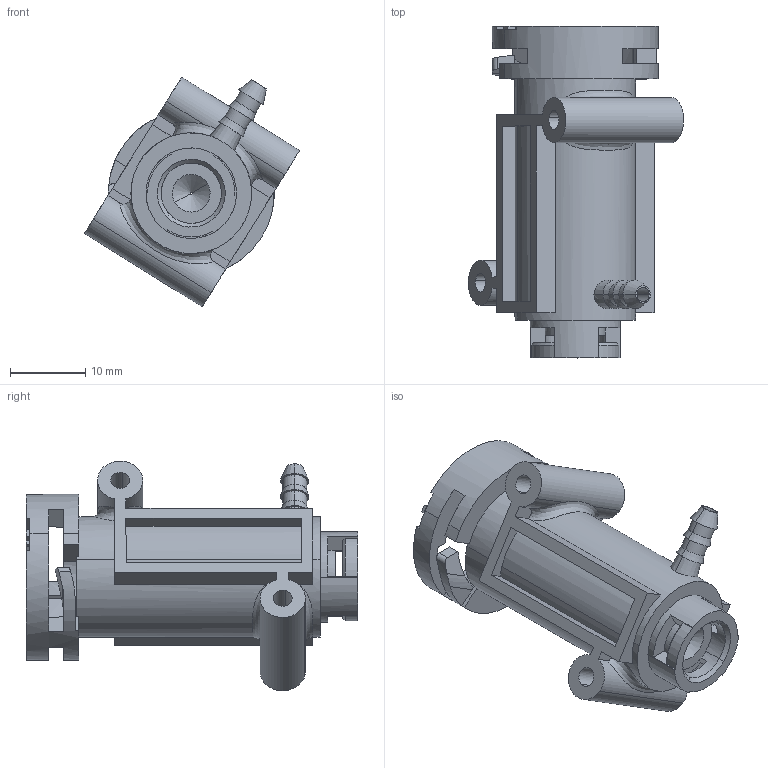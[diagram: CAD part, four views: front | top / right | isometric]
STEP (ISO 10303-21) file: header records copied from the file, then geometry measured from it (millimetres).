
FILE_DESCRIPTION(('CATIA V5 STEP Exchange'),'2;1');
FILE_NAME('C:\Users\Administrator\Desktop\YJ-BPC0010036-3孔.stp','2021-12-16T08:40:23+00:00',('none'),('none'),'CATIA Version 5 Release 20 GA (IN-10)','CATIA V5 STEP AP214','none');
FILE_SCHEMA(('AUTOMOTIVE_DESIGN { 1 0 10303 214 1 1 1 1 }'));
Length unit declared in the file: millimetre
Products named in the file (1): 573.4601.02_V1
Bounding box: 28.54 x 44 x 30.46 mm (x, y, z)
Volume: 5549.1 mm3; surface area: 6293.5 mm2
Topology: 1 solids, 1 shells, 186 faces, 631 edges, 440 vertices
Faces by surface type: plane 90, cylinder 56, cone 26, bspline 8, torus 4, sphere 2
Entity records: 9266 total; most frequent: CARTESIAN_POINT 3229, ORIENTED_EDGE 1248, DIRECTION 746, EDGE_CURVE 624, VERTEX_POINT 440, AXIS2_PLACEMENT_3D 326, VECTOR 249, LINE 249
